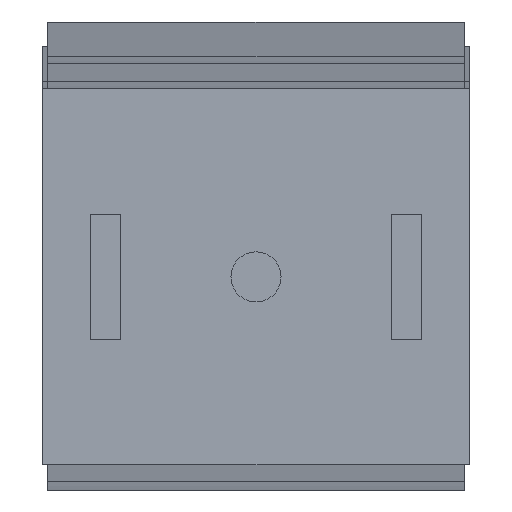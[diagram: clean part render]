
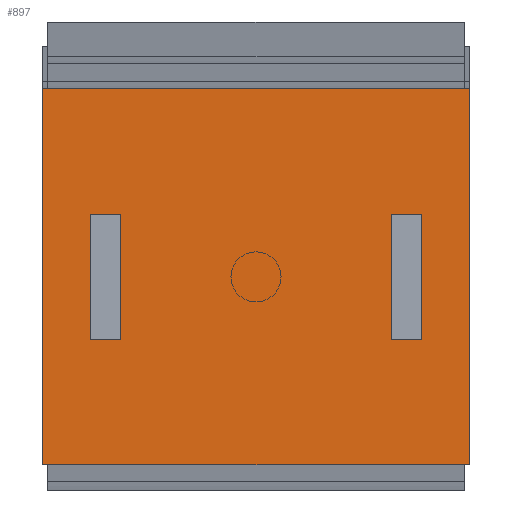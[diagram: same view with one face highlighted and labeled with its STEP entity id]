
A CAD part, left-side view. The second image highlights one B-rep face of the part: STEP entity #897.
In plain terms, the highlighted planar face has unit normal (-1, 0, 0).
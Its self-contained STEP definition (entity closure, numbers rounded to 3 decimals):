
#87=FACE_OUTER_BOUND('',#139,.T.);
#139=EDGE_LOOP('',(#656,#657,#658,#659));
#192=LINE('',#1317,#302);
#196=LINE('',#1323,#306);
#198=LINE('',#1327,#308);
#201=LINE('',#1331,#311);
#302=VECTOR('',#1063,10.);
#306=VECTOR('',#1069,10.);
#308=VECTOR('',#1073,10.);
#311=VECTOR('',#1078,10.);
#414=VERTEX_POINT('',#1315);
#415=VERTEX_POINT('',#1316);
#416=VERTEX_POINT('',#1322);
#417=VERTEX_POINT('',#1326);
#500=EDGE_CURVE('',#414,#415,#192,.T.);
#504=EDGE_CURVE('',#415,#416,#196,.T.);
#506=EDGE_CURVE('',#416,#417,#198,.T.);
#509=EDGE_CURVE('',#417,#414,#201,.T.);
#656=ORIENTED_EDGE('',*,*,#509,.T.);
#657=ORIENTED_EDGE('',*,*,#500,.T.);
#658=ORIENTED_EDGE('',*,*,#504,.T.);
#659=ORIENTED_EDGE('',*,*,#506,.T.);
#851=PLANE('',#977);
#897=ADVANCED_FACE('',(#87),#851,.F.);
#977=AXIS2_PLACEMENT_3D('',#1333,#1081,#1082);
#1063=DIRECTION('',(0.,0.,-1.));
#1069=DIRECTION('',(0.,-1.,0.));
#1073=DIRECTION('',(0.,0.,1.));
#1078=DIRECTION('',(0.,1.,0.));
#1081=DIRECTION('center_axis',(1.,0.,0.));
#1082=DIRECTION('ref_axis',(0.,0.,-1.));
#1315=CARTESIAN_POINT('',(0.,42.5,37.5));
#1316=CARTESIAN_POINT('',(0.,42.5,-37.5));
#1317=CARTESIAN_POINT('',(0.,42.5,37.5));
#1322=CARTESIAN_POINT('',(0.,-42.5,-37.5));
#1323=CARTESIAN_POINT('',(0.,42.5,-37.5));
#1326=CARTESIAN_POINT('',(0.,-42.5,37.5));
#1327=CARTESIAN_POINT('',(0.,-42.5,-37.5));
#1331=CARTESIAN_POINT('',(0.,-42.5,37.5));
#1333=CARTESIAN_POINT('Origin',(0.,0.,0.));
